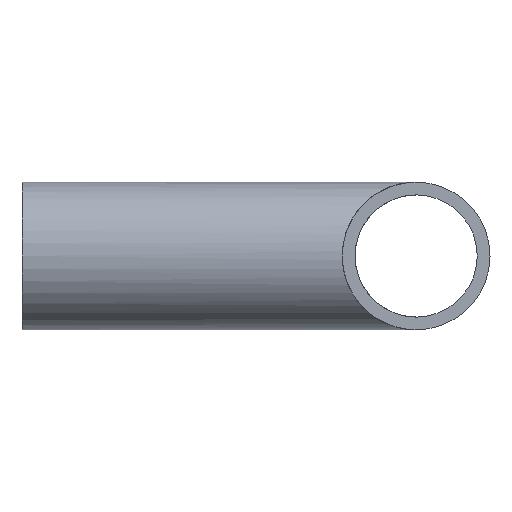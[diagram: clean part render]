
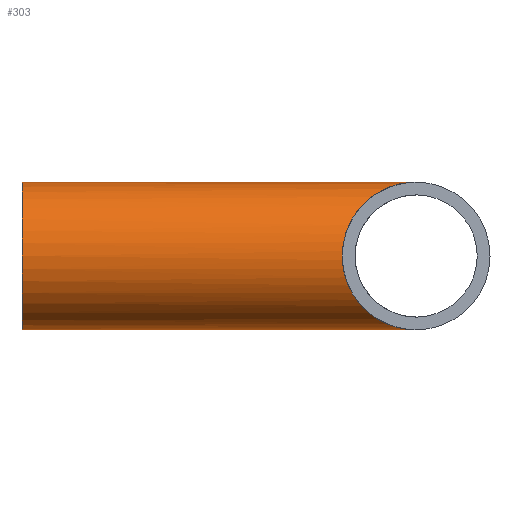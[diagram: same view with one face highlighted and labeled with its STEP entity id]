
A CAD part, left-side view. The second image highlights one B-rep face of the part: STEP entity #303.
In plain terms, the highlighted cylindrical face has radius 9.525 mm (diameter 19.05 mm), a partial arc.
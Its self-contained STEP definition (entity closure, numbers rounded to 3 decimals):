
#1 = LINE ( 'NONE', #91, #401 ) ;
#16 = EDGE_CURVE ( 'NONE', #234, #61, #1, .T. ) ;
#24 = DIRECTION ( 'NONE',  ( 0., 1., 0. ) ) ;
#57 = ORIENTED_EDGE ( 'NONE', *, *, #270, .F. ) ;
#61 = VERTEX_POINT ( 'NONE', #64 ) ;
#64 = CARTESIAN_POINT ( 'NONE',  ( 0., 50.8, -9.525 ) ) ;
#71 = ORIENTED_EDGE ( 'NONE', *, *, #359, .T. ) ;
#91 = CARTESIAN_POINT ( 'NONE',  ( 0., -500000., -9.525 ) ) ;
#106 = EDGE_LOOP ( 'NONE', ( #326, #57, #71, #182 ) ) ;
#119 = DIRECTION ( 'NONE',  ( 0., 0., 1. ) ) ;
#122 = CARTESIAN_POINT ( 'NONE',  ( 0., 50.8, 9.525 ) ) ;
#132 =( BOUNDED_CURVE ( )  B_SPLINE_CURVE ( 3, ( #295, #328, #192, #289 ),
 .UNSPECIFIED., .F., .T. ) 
 B_SPLINE_CURVE_WITH_KNOTS ( ( 4, 4 ),
 ( 4.712, 7.854 ),
 .UNSPECIFIED. ) 
 CURVE ( )  GEOMETRIC_REPRESENTATION_ITEM ( )  RATIONAL_B_SPLINE_CURVE ( ( 1., 0.333, 0.333, 1. ) ) 
 REPRESENTATION_ITEM ( '' )  );
#160 = AXIS2_PLACEMENT_3D ( 'NONE', #338, #24, #119 ) ;
#182 = ORIENTED_EDGE ( 'NONE', *, *, #218, .T. ) ;
#187 = DIRECTION ( 'NONE',  ( 0., 1., 0. ) ) ;
#192 = CARTESIAN_POINT ( 'NONE',  ( -19.05, 19.05, -9.525 ) ) ;
#194 = LINE ( 'NONE', #391, #284 ) ;
#217 = CARTESIAN_POINT ( 'NONE',  ( 0., 0., 9.525 ) ) ;
#218 = EDGE_CURVE ( 'NONE', #397, #61, #231, .T. ) ;
#231 = CIRCLE ( 'NONE', #300, 9.525 ) ;
#234 = VERTEX_POINT ( 'NONE', #354 ) ;
#255 = FACE_OUTER_BOUND ( 'NONE', #106, .T. ) ;
#270 = EDGE_CURVE ( 'NONE', #282, #234, #132, .T. ) ;
#282 = VERTEX_POINT ( 'NONE', #217 ) ;
#284 = VECTOR ( 'NONE', #187, 1000. ) ;
#289 = CARTESIAN_POINT ( 'NONE',  ( 0., 0., -9.525 ) ) ;
#295 = CARTESIAN_POINT ( 'NONE',  ( 0., 0., 9.525 ) ) ;
#300 = AXIS2_PLACEMENT_3D ( 'NONE', #305, #306, #308 ) ;
#303 = ADVANCED_FACE ( 'NONE', ( #255 ), #323, .T. ) ;
#305 = CARTESIAN_POINT ( 'NONE',  ( 0., 50.8, 0. ) ) ;
#306 = DIRECTION ( 'NONE',  ( 0., -1., 0. ) ) ;
#308 = DIRECTION ( 'NONE',  ( 0., 0., 1. ) ) ;
#323 = CYLINDRICAL_SURFACE ( 'NONE', #160, 9.525 ) ;
#326 = ORIENTED_EDGE ( 'NONE', *, *, #16, .F. ) ;
#328 = CARTESIAN_POINT ( 'NONE',  ( -19.05, 19.05, 9.525 ) ) ;
#338 = CARTESIAN_POINT ( 'NONE',  ( 0., -500000., 0. ) ) ;
#354 = CARTESIAN_POINT ( 'NONE',  ( 0., 0., -9.525 ) ) ;
#359 = EDGE_CURVE ( 'NONE', #282, #397, #194, .T. ) ;
#380 = DIRECTION ( 'NONE',  ( 0., 1., 0. ) ) ;
#391 = CARTESIAN_POINT ( 'NONE',  ( 0., -500000., 9.525 ) ) ;
#397 = VERTEX_POINT ( 'NONE', #122 ) ;
#401 = VECTOR ( 'NONE', #380, 1000. ) ;
